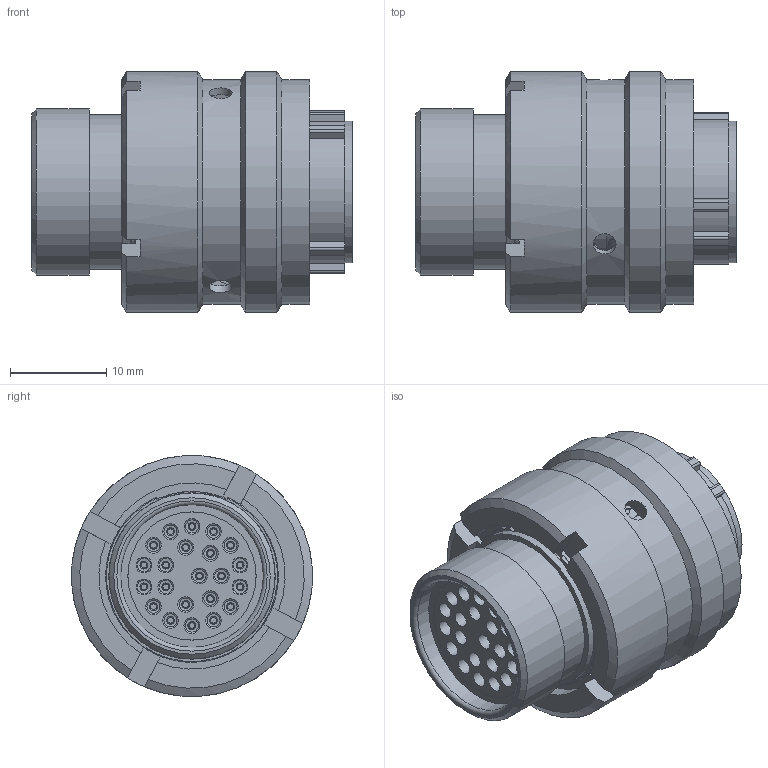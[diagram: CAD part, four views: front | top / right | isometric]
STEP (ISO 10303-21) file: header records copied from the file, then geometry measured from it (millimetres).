
FILE_DESCRIPTION(/* description */ ('STEP AP214'),/* implementation_level */ '2;1');
FILE_NAME(/* name */ 'AS612-35PA.step',/* time_stamp */ '',/* author */ (''),/* organization */ (''),/* preprocessor_version */ 'ST-DEVELOPER v20.1',/* originating_system */ 'Autodesk Translation Framework v15.8.0.0',/* authorisation */ '');
FILE_SCHEMA (('AUTOMOTIVE_DESIGN { 1 0 10303 214 3 1 1 }'));
Length unit declared in the file: millimetre
Products named in the file (1): AS612-35PA
Bounding box: 33.37 x 25.08 x 25.08 mm (x, y, z)
Volume: 7241 mm3; surface area: 8489.5 mm2
Topology: 1 solids, 24 shells, 988 faces, 2616 edges, 1724 vertices
Faces by surface type: plane 467, cylinder 255, torus 157, cone 74, bspline 33, sphere 2
Full cylindrical faces by diameter (mm): 0.61 x22, 0.744 x44, 1.65 x22, 1.73 x22, 2.38 x3, 13.31 x1, 13.33 x1, 13.34 x1, 13.65 x1, 14.11 x1, 14.655 x1, 14.7 x1, 14.84 x1, 15 x1, 15.315 x1, 15.42 x1, 16.1 x1, 16.18 x1, 17.29 x1, 17.31 x2, 17.61 x1, 19.07 x1, 19.45 x1, 22.12 x1, 23.35 x2, 25.1 x2
Entity records: 40189 total; most frequent: CARTESIAN_POINT 14616, ORIENTED_EDGE 5230, DIRECTION 5091, EDGE_CURVE 2615, AXIS2_PLACEMENT_3D 2201, VERTEX_POINT 1724, EDGE_LOOP 1189, CIRCLE 1106
